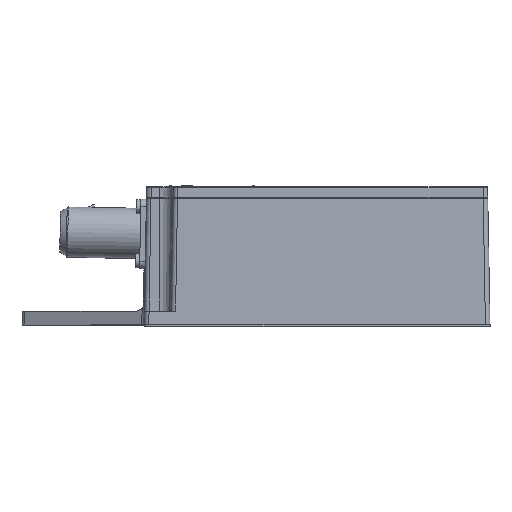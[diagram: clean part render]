
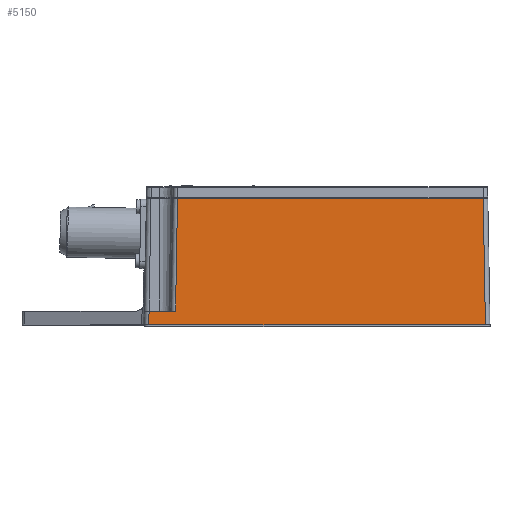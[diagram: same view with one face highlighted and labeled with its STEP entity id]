
A CAD part, top view. The second image highlights one B-rep face of the part: STEP entity #5150.
In plain terms, the highlighted planar face has unit normal (0, 0.018, 1).
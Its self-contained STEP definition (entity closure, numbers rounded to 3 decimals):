
#29 = VECTOR ( 'NONE', #43000, 1000. ) ;
#345 = CARTESIAN_POINT ( 'NONE',  ( 13.604, 6., -0.105 ) ) ;
#675 = AXIS2_PLACEMENT_3D ( 'NONE', #16874, #57147, #58312 ) ;
#799 = DIRECTION ( 'NONE',  ( 1., 0., 0. ) ) ;
#2425 = EDGE_CURVE ( 'NONE', #8932, #54843, #74693, .T. ) ;
#5150 = ADVANCED_FACE ( 'NONE', ( #33936 ), #64126, .T. ) ;
#8096 = VECTOR ( 'NONE', #21908, 1000. ) ;
#8932 = VERTEX_POINT ( 'NONE', #50383 ) ;
#11215 = CARTESIAN_POINT ( 'NONE',  ( 14.46, 55., -0.96 ) ) ;
#15943 = CARTESIAN_POINT ( 'NONE',  ( 148., 0., 0. ) ) ;
#16874 = CARTESIAN_POINT ( 'NONE',  ( -3.883, 0., 0. ) ) ;
#17786 = LINE ( 'NONE', #345, #53025 ) ;
#19465 = VERTEX_POINT ( 'NONE', #70077 ) ;
#21908 = DIRECTION ( 'NONE',  ( 0.017, -1., 0.017 ) ) ;
#24413 = EDGE_LOOP ( 'NONE', ( #62094, #34912, #37760, #39375, #64258, #63922 ) ) ;
#29876 = CARTESIAN_POINT ( 'NONE',  ( 2., 0., 0. ) ) ;
#30260 = VECTOR ( 'NONE', #799, 1000. ) ;
#33936 = FACE_OUTER_BOUND ( 'NONE', #24413, .T. ) ;
#33968 = EDGE_CURVE ( 'NONE', #19465, #8932, #75649, .T. ) ;
#34912 = ORIENTED_EDGE ( 'NONE', *, *, #59405, .T. ) ;
#37760 = ORIENTED_EDGE ( 'NONE', *, *, #65020, .T. ) ;
#39375 = ORIENTED_EDGE ( 'NONE', *, *, #47215, .T. ) ;
#39898 = DIRECTION ( 'NONE',  ( -0.017, -1., 0.017 ) ) ;
#42613 = LINE ( 'NONE', #48363, #29 ) ;
#42795 = VERTEX_POINT ( 'NONE', #60619 ) ;
#43000 = DIRECTION ( 'NONE',  ( -0.017, -1., 0.017 ) ) ;
#46388 = DIRECTION ( 'NONE',  ( 1., 0., 0. ) ) ;
#47215 = EDGE_CURVE ( 'NONE', #48127, #70653, #69033, .T. ) ;
#47515 = DIRECTION ( 'NONE',  ( -1., 0., 0. ) ) ;
#48127 = VERTEX_POINT ( 'NONE', #52984 ) ;
#48363 = CARTESIAN_POINT ( 'NONE',  ( 14.46, 55., -0.96 ) ) ;
#48369 = LINE ( 'NONE', #29876, #30260 ) ;
#50383 = CARTESIAN_POINT ( 'NONE',  ( 147.04, 55., -0.96 ) ) ;
#50744 = EDGE_CURVE ( 'NONE', #70653, #54843, #48369, .T. ) ;
#52984 = CARTESIAN_POINT ( 'NONE',  ( 2.104, 6., -0.105 ) ) ;
#53025 = VECTOR ( 'NONE', #47515, 1000. ) ;
#54843 = VERTEX_POINT ( 'NONE', #15943 ) ;
#57102 = CARTESIAN_POINT ( 'NONE',  ( 147.04, 55., -0.96 ) ) ;
#57147 = DIRECTION ( 'NONE',  ( 0., 0.017, 1. ) ) ;
#58312 = DIRECTION ( 'NONE',  ( 1., 0., 0. ) ) ;
#59405 = EDGE_CURVE ( 'NONE', #19465, #42795, #42613, .T. ) ;
#60486 = VECTOR ( 'NONE', #39898, 1000. ) ;
#60515 = CARTESIAN_POINT ( 'NONE',  ( 2., 0., 0. ) ) ;
#60619 = CARTESIAN_POINT ( 'NONE',  ( 13.604, 6., -0.105 ) ) ;
#62094 = ORIENTED_EDGE ( 'NONE', *, *, #33968, .F. ) ;
#63723 = VECTOR ( 'NONE', #46388, 1000. ) ;
#63922 = ORIENTED_EDGE ( 'NONE', *, *, #2425, .F. ) ;
#64126 = PLANE ( 'NONE',  #675 ) ;
#64258 = ORIENTED_EDGE ( 'NONE', *, *, #50744, .T. ) ;
#65020 = EDGE_CURVE ( 'NONE', #42795, #48127, #17786, .T. ) ;
#69033 = LINE ( 'NONE', #69423, #60486 ) ;
#69423 = CARTESIAN_POINT ( 'NONE',  ( 2.104, 6., -0.105 ) ) ;
#70077 = CARTESIAN_POINT ( 'NONE',  ( 14.46, 55., -0.96 ) ) ;
#70653 = VERTEX_POINT ( 'NONE', #60515 ) ;
#74693 = LINE ( 'NONE', #57102, #8096 ) ;
#75649 = LINE ( 'NONE', #11215, #63723 ) ;
